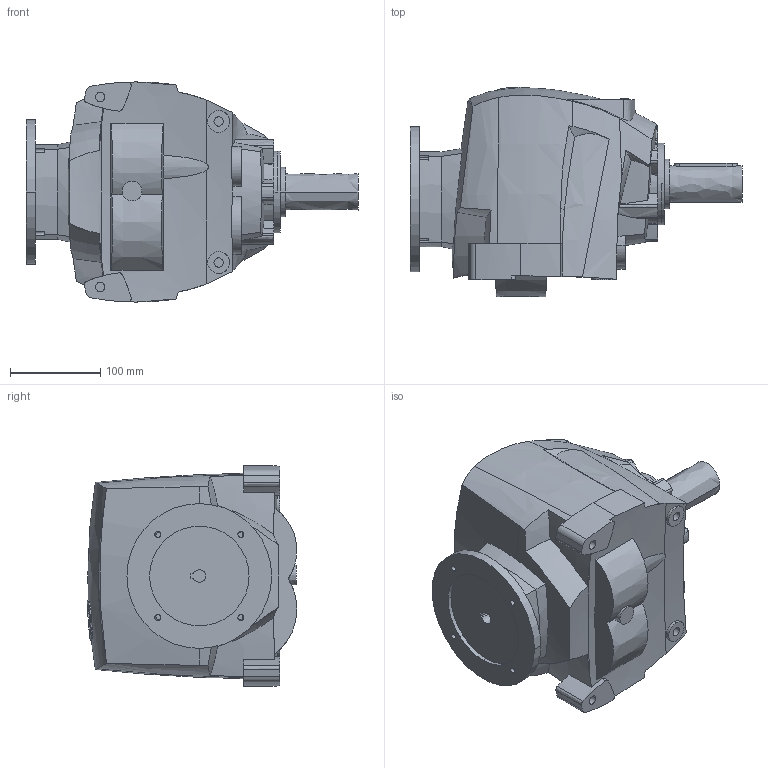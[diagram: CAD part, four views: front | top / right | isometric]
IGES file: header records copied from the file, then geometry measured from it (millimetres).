
Start section:  PTC IGES file: r35_unv_pam71_d2.igs
Global section: file name: r35_unv_pam71_d2.igs; native system: Pro/ENGINEER by Parametric Technology Corporation; preprocessor: 2008230; author: Luca; organization: Unknown; date: 20131105.110825; units: millimetre
Bounding box: 367 x 231.69 x 243.29 mm (x, y, z)
Volume: 8753844 mm3; surface area: 308680.1 mm2
Topology: 1 solids, 1 shells, 388 faces, 1101 edges, 745 vertices
Faces by surface type: revolution 166, bspline 130, extrusion 92
